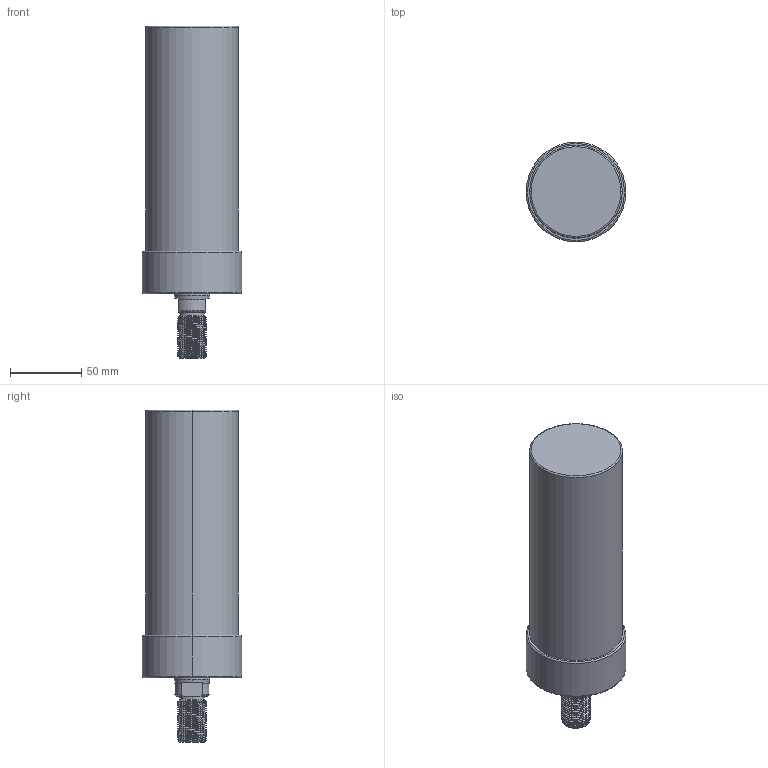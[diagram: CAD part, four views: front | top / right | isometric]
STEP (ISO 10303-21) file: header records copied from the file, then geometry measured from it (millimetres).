
FILE_DESCRIPTION (( 'STEP AP203' ), '1' );
FILE_NAME ('CLLU-065GT-125.STEP', '2020-01-16T02:17:16', ( '' ), ( '' ), 'SwSTEP 2.0', 'SolidWorks 2015', '' );
FILE_SCHEMA (( 'CONFIG_CONTROL_DESIGN' ));
Length unit declared in the file: millimetre
Products named in the file (1): CLLU-065GT-125
Bounding box: 70 x 70 x 233 mm (x, y, z)
Volume: 652547.3 mm3; surface area: 51660.6 mm2
Topology: 1 solids, 1 shells, 105 faces, 267 edges, 165 vertices
Faces by surface type: cylinder 60, cone 26, plane 11, torus 6, bspline 2
Entity records: 5356 total; most frequent: CARTESIAN_POINT 2998, ORIENTED_EDGE 518, DIRECTION 448, EDGE_CURVE 259, AXIS2_PLACEMENT_3D 180, VERTEX_POINT 165, EDGE_LOOP 114, ADVANCED_FACE 105
